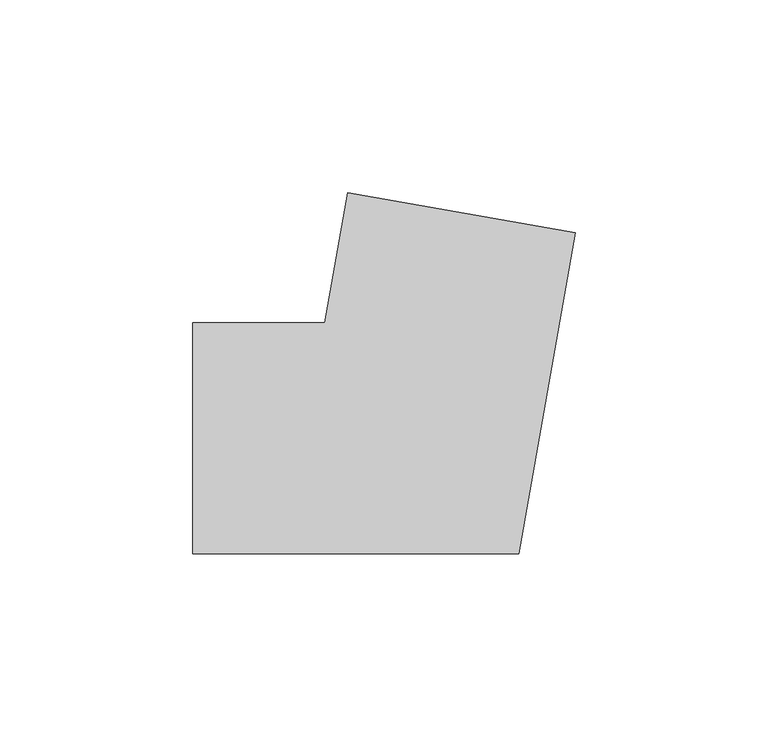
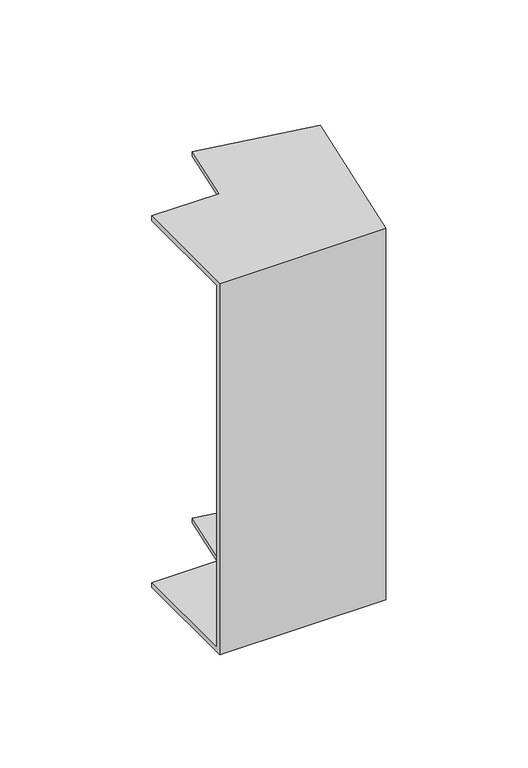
"""IFC4 building model written with IfcOpenShell, lengths in millimetres: cable carrier fitting geometry, КНС_УголВнутренний_ILC_DKC : Угол внутренний_DKC."""

from ifc_helpers import new_model, si_unit, origin, place, context, project, spatial, faceted_brep, source, transform, mapped, element, save


def cable_carrier_fitting_f76ab945(model_context):
    return source(origin(), model_context, "Body", "Brep", [
        faceted_brep([(-59.541476, -30.0, 100.0), (-59.541476, 30.0, 100.0), (-59.541476, 30.0, 97.5), (-59.541476, -27.5, 97.5), (-59.541476, -27.5, -97.5), (-59.541476, 30.0, -97.5), (-59.541476, 30.0, -100.0), (-59.541476, -30.0, -100.0), (39.8835014, 53.4274619, 100.0), (39.8835014, 53.4274619, -100.0), (-19.2049638, 63.8463525, -100.0), (-19.2049638, 63.8463525, -97.5), (37.421482, 53.8615823, -97.5), (37.421482, 53.8615823, 97.5), (-19.2049638, 63.8463525, 97.5), (-19.2049638, 63.8463525, 100.0), (25.1729889, -30.0, 100.0), (-25.1729889, 30.0, 100.0), (-25.1729889, 30.0, 97.5), (23.0752399, -27.5, 97.5), (23.0752399, -27.5, -97.5), (-25.1729889, 30.0, -97.5), (-25.1729889, 30.0, -100.0), (25.1729889, -30.0, -100.0)], [[[0, 1, 2, 3, 4, 5, 6, 7]], [[8, 9, 10, 11, 12, 13, 14, 15]], [[1, 0, 16, 8, 15, 17]], [[2, 1, 17, 18]], [[3, 2, 18, 14, 13, 19]], [[4, 3, 19, 20]], [[5, 4, 20, 12, 11, 21]], [[6, 5, 21, 22]], [[7, 6, 22, 10, 9, 23]], [[0, 7, 23, 16]], [[18, 17, 15, 14]], [[20, 19, 13, 12]], [[22, 21, 11, 10]], [[16, 23, 9, 8]]]),
    ])


if __name__ == "__main__":
    model = new_model("IFC4")
    model_context = context("Model", 3, world=origin())
    ifc_project = project(units=[si_unit("LENGTHUNIT", "METRE", prefix="MILLI")], contexts=[model_context])
    site = spatial("IfcSite", under=ifc_project)
    building = spatial("IfcBuilding", under=site)
    placement = place(None, origin())
    cable_carrier_fitting_shape = cable_carrier_fitting_f76ab945(model_context)
    element("IfcCableCarrierFitting", 1, ObjectType="КНС_УголВнутренний_ILC_DKC : Угол внутренний_DKC", at=placement, inside=building, context=model_context, shape_type="MappedRepresentation", body=[
        mapped(cable_carrier_fitting_shape, transform((0.0, 0.0, 0.0), x_axis=(1.0, 0.0, 0.0), y_axis=(0.0, 1.0, 0.0), z_axis=(0.0, 0.0, 1.0))),
    ])
    save(model, "model.ifc")
